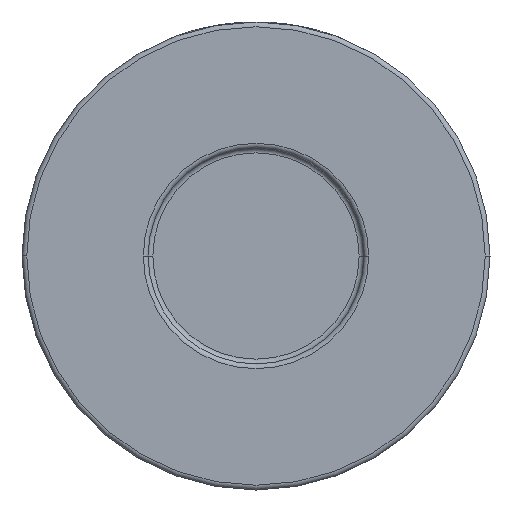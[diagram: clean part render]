
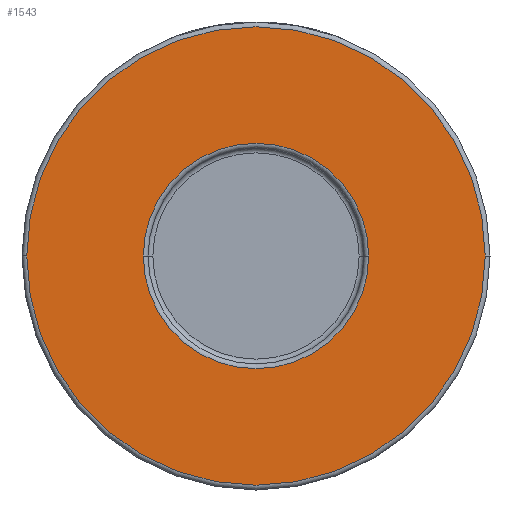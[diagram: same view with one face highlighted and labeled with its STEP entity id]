
A CAD part, front view. The second image highlights one B-rep face of the part: STEP entity #1543.
In plain terms, the highlighted planar face has unit normal (0, -1, 0).
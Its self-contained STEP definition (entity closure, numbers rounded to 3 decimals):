
#52 = EDGE_CURVE ( 'NONE', #550, #3865, #691, .T. ) ;
#89 = DIRECTION ( 'NONE',  ( 1., 0., 0. ) ) ;
#99 = EDGE_LOOP ( 'NONE', ( #3692, #1773 ) ) ;
#493 = DIRECTION ( 'NONE',  ( 0., -1., 0. ) ) ;
#550 = VERTEX_POINT ( 'NONE', #1940 ) ;
#691 = CIRCLE ( 'NONE', #2476, 23.6 ) ;
#763 = EDGE_CURVE ( 'NONE', #2428, #2847, #3453, .T. ) ;
#909 = DIRECTION ( 'NONE',  ( 0., 1., 0. ) ) ;
#1023 = CARTESIAN_POINT ( 'NONE',  ( -48., -30., 0. ) ) ;
#1174 = AXIS2_PLACEMENT_3D ( 'NONE', #1611, #493, #1217 ) ;
#1217 = DIRECTION ( 'NONE',  ( 1., 0., 0. ) ) ;
#1427 = EDGE_LOOP ( 'NONE', ( #2020, #2709 ) ) ;
#1441 = AXIS2_PLACEMENT_3D ( 'NONE', #1534, #2900, #89 ) ;
#1534 = CARTESIAN_POINT ( 'NONE',  ( 0., -30., 0. ) ) ;
#1543 = ADVANCED_FACE ( 'NONE', ( #3801, #4569 ), #4549, .T. ) ;
#1611 = CARTESIAN_POINT ( 'NONE',  ( 0., -30., 0. ) ) ;
#1622 = DIRECTION ( 'NONE',  ( 1., 0., 0. ) ) ;
#1679 = CARTESIAN_POINT ( 'NONE',  ( 49., -30., 0. ) ) ;
#1773 = ORIENTED_EDGE ( 'NONE', *, *, #52, .T. ) ;
#1940 = CARTESIAN_POINT ( 'NONE',  ( -23.6, -30., 0. ) ) ;
#2020 = ORIENTED_EDGE ( 'NONE', *, *, #763, .T. ) ;
#2045 = DIRECTION ( 'NONE',  ( 0., 1., 0. ) ) ;
#2068 = DIRECTION ( 'NONE',  ( 1., 0., 0. ) ) ;
#2070 = DIRECTION ( 'NONE',  ( 1., 0., 0. ) ) ;
#2209 = CARTESIAN_POINT ( 'NONE',  ( 0., -30., 0. ) ) ;
#2322 = EDGE_CURVE ( 'NONE', #2847, #2428, #3999, .T. ) ;
#2410 = CARTESIAN_POINT ( 'NONE',  ( 0., -30., 0. ) ) ;
#2428 = VERTEX_POINT ( 'NONE', #3933 ) ;
#2476 = AXIS2_PLACEMENT_3D ( 'NONE', #2410, #2045, #2068 ) ;
#2709 = ORIENTED_EDGE ( 'NONE', *, *, #2322, .T. ) ;
#2748 = EDGE_CURVE ( 'NONE', #3865, #550, #4507, .T. ) ;
#2847 = VERTEX_POINT ( 'NONE', #1023 ) ;
#2900 = DIRECTION ( 'NONE',  ( 0., -1., 0. ) ) ;
#3245 = AXIS2_PLACEMENT_3D ( 'NONE', #2209, #909, #1622 ) ;
#3453 = CIRCLE ( 'NONE', #1441, 48. ) ;
#3464 = DIRECTION ( 'NONE',  ( 0., -1., 0. ) ) ;
#3692 = ORIENTED_EDGE ( 'NONE', *, *, #2748, .T. ) ;
#3801 = FACE_BOUND ( 'NONE', #99, .T. ) ;
#3865 = VERTEX_POINT ( 'NONE', #4071 ) ;
#3933 = CARTESIAN_POINT ( 'NONE',  ( 48., -30., 0. ) ) ;
#3999 = CIRCLE ( 'NONE', #1174, 48. ) ;
#4071 = CARTESIAN_POINT ( 'NONE',  ( 23.6, -30., 0. ) ) ;
#4287 = AXIS2_PLACEMENT_3D ( 'NONE', #1679, #3464, #2070 ) ;
#4507 = CIRCLE ( 'NONE', #3245, 23.6 ) ;
#4549 = PLANE ( 'NONE',  #4287 ) ;
#4569 = FACE_OUTER_BOUND ( 'NONE', #1427, .T. ) ;
